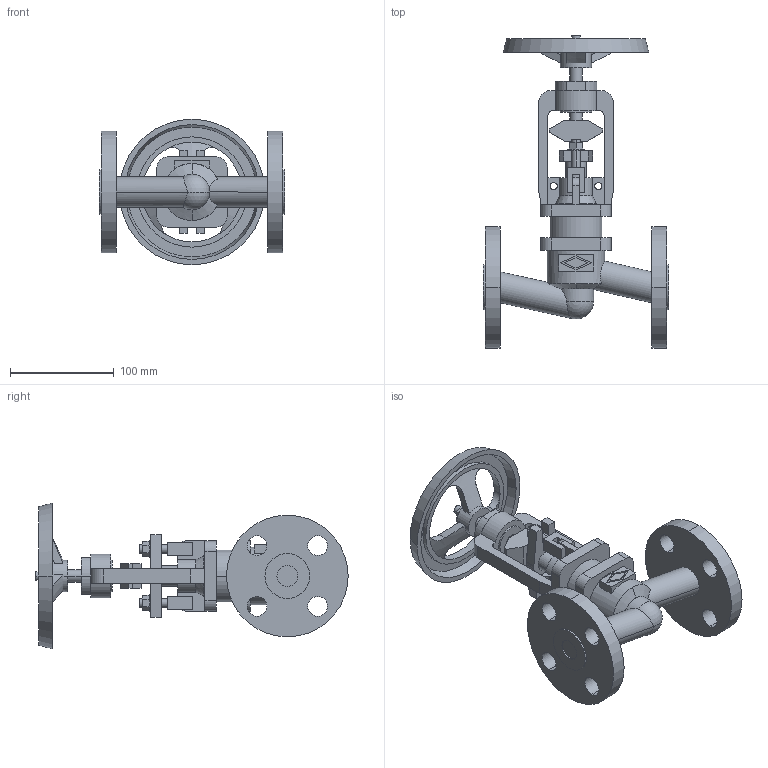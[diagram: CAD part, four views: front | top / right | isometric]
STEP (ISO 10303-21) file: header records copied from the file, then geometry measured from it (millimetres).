
FILE_DESCRIPTION(('OneSpaceDesigner STEP Export'),'2;1');
FILE_NAME('c000004212.stp','2010-04-30T 9:44:46',(''),(''),'OneSpace Designer STEP processor for AP214 (Solid Model)','OneSpace Modeling 15.50B 03-Nov-2007 (C) CoCreate Software GmbH','');
FILE_SCHEMA(('AUTOMOTIVE_DESIGN { 1 0 10303 214 1 1 1 1 }'));
Length unit declared in the file: millimetre
Products named in the file (1): 1
Bounding box: 178 x 300.4 x 140 mm (x, y, z)
Volume: 843372 mm3; surface area: 169608.4 mm2
Topology: 1 solids, 1 shells, 284 faces, 741 edges, 484 vertices
Faces by surface type: plane 149, cylinder 107, cone 22, torus 4, sphere 2
Entity records: 10848 total; most frequent: CARTESIAN_POINT 1933, ORIENTED_EDGE 1478, DIRECTION 1233, EDGE_CURVE 739, VERTEX_POINT 484, VECTOR 435, LINE 435, AXIS2_PLACEMENT_3D 399
